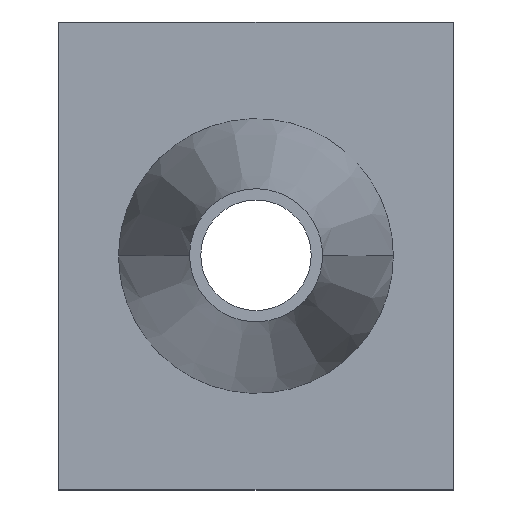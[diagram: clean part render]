
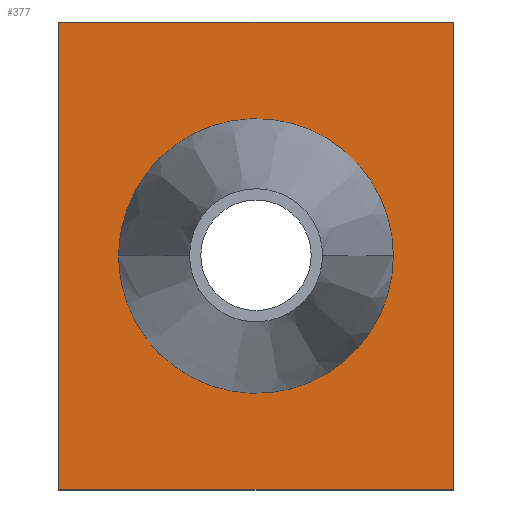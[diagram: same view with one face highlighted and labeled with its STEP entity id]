
A CAD part, top view. The second image highlights one B-rep face of the part: STEP entity #377.
In plain terms, the highlighted planar face has unit normal (0, 0, 1).
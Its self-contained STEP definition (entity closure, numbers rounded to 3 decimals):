
#167=CARTESIAN_POINT('Vertex',(0.,127.,3.)) ;
#174=CARTESIAN_POINT('Vertex',(0.,0.,3.)) ;
#177=CARTESIAN_POINT('Line Origine',(0.,63.5,3.)) ;
#198=CARTESIAN_POINT('Vertex',(107.,127.,3.)) ;
#201=CARTESIAN_POINT('Line Origine',(53.5,127.,3.)) ;
#222=CARTESIAN_POINT('Vertex',(107.,0.,3.)) ;
#225=CARTESIAN_POINT('Line Origine',(107.,63.5,3.)) ;
#242=CARTESIAN_POINT('Line Origine',(53.5,0.,3.)) ;
#324=CARTESIAN_POINT('Axis2P3D Location',(0.,0.,3.)) ;
#336=CARTESIAN_POINT('Control Point',(90.766,63.5,3.)) ;
#337=CARTESIAN_POINT('Control Point',(90.766,69.497,3.)) ;
#338=CARTESIAN_POINT('Control Point',(89.56,75.493,3.)) ;
#339=CARTESIAN_POINT('Control Point',(87.146,81.166,3.)) ;
#340=CARTESIAN_POINT('Control Point',(80.176,91.221,3.)) ;
#341=CARTESIAN_POINT('Control Point',(69.861,97.8,3.)) ;
#342=CARTESIAN_POINT('Control Point',(64.099,99.994,3.)) ;
#343=CARTESIAN_POINT('Control Point',(52.02,101.944,3.)) ;
#344=CARTESIAN_POINT('Control Point',(40.127,99.071,3.)) ;
#345=CARTESIAN_POINT('Control Point',(34.55,96.44,3.)) ;
#346=CARTESIAN_POINT('Control Point',(25.239,89.44,3.)) ;
#347=CARTESIAN_POINT('Control Point',(19.194,79.53,3.)) ;
#348=CARTESIAN_POINT('Control Point',(17.221,74.346,3.)) ;
#349=CARTESIAN_POINT('Control Point',(16.234,68.923,3.)) ;
#350=CARTESIAN_POINT('Control Point',(16.234,63.5,3.)) ;
#351=CARTESIAN_POINT('Vertex',(90.766,63.5,3.)) ;
#353=CARTESIAN_POINT('Vertex',(16.234,63.5,3.)) ;
#357=CARTESIAN_POINT('Control Point',(90.766,63.5,3.)) ;
#358=CARTESIAN_POINT('Control Point',(90.766,57.503,3.)) ;
#359=CARTESIAN_POINT('Control Point',(89.56,51.507,3.)) ;
#360=CARTESIAN_POINT('Control Point',(87.146,45.834,3.)) ;
#361=CARTESIAN_POINT('Control Point',(80.176,35.779,3.)) ;
#362=CARTESIAN_POINT('Control Point',(69.861,29.2,3.)) ;
#363=CARTESIAN_POINT('Control Point',(64.099,27.006,3.)) ;
#364=CARTESIAN_POINT('Control Point',(52.02,25.056,3.)) ;
#365=CARTESIAN_POINT('Control Point',(40.127,27.929,3.)) ;
#366=CARTESIAN_POINT('Control Point',(34.55,30.56,3.)) ;
#367=CARTESIAN_POINT('Control Point',(25.239,37.56,3.)) ;
#368=CARTESIAN_POINT('Control Point',(19.194,47.47,3.)) ;
#369=CARTESIAN_POINT('Control Point',(17.221,52.654,3.)) ;
#370=CARTESIAN_POINT('Control Point',(16.234,58.077,3.)) ;
#371=CARTESIAN_POINT('Control Point',(16.234,63.5,3.)) ;
#178=DIRECTION('Vector Direction',(0.,1.,0.)) ;
#202=DIRECTION('Vector Direction',(-1.,0.,0.)) ;
#226=DIRECTION('Vector Direction',(0.,1.,0.)) ;
#243=DIRECTION('Vector Direction',(1.,0.,0.)) ;
#325=DIRECTION('Axis2P3D Direction',(0.,0.,1.)) ;
#326=DIRECTION('Axis2P3D XDirection',(1.,0.,0.)) ;
#327=AXIS2_PLACEMENT_3D('Plane Axis2P3D',#324,#325,#326) ;
#330=ORIENTED_EDGE('',*,*,#181,.F.) ;
#331=ORIENTED_EDGE('',*,*,#246,.T.) ;
#332=ORIENTED_EDGE('',*,*,#229,.T.) ;
#333=ORIENTED_EDGE('',*,*,#205,.T.) ;
#374=ORIENTED_EDGE('',*,*,#355,.F.) ;
#375=ORIENTED_EDGE('',*,*,#372,.T.) ;
#376=FACE_BOUND('',#373,.T.) ;
#179=VECTOR('Line Direction',#178,1.) ;
#203=VECTOR('Line Direction',#202,1.) ;
#227=VECTOR('Line Direction',#226,1.) ;
#244=VECTOR('Line Direction',#243,1.) ;
#377=ADVANCED_FACE('PartBody',(#334,#376),#328,.T.) ;
#335=B_SPLINE_CURVE_WITH_KNOTS('',5,(#336,#337,#338,#339,#340,#341,#342,#343,#344,#345,#346,#347,#348,#349,#350),.UNSPECIFIED.,.F.,.U.,(6,3,3,3,6),(0.,32.32,64.646,96.971,126.199),.UNSPECIFIED.) ;
#356=B_SPLINE_CURVE_WITH_KNOTS('',5,(#357,#358,#359,#360,#361,#362,#363,#364,#365,#366,#367,#368,#369,#370,#371),.UNSPECIFIED.,.F.,.U.,(6,3,3,3,6),(0.,32.32,64.646,96.971,126.199),.UNSPECIFIED.) ;
#181=EDGE_CURVE('',#175,#168,#180,.T.) ;
#205=EDGE_CURVE('',#199,#168,#204,.T.) ;
#229=EDGE_CURVE('',#223,#199,#228,.T.) ;
#246=EDGE_CURVE('',#175,#223,#245,.T.) ;
#355=EDGE_CURVE('',#352,#354,#335,.T.) ;
#372=EDGE_CURVE('',#352,#354,#356,.T.) ;
#329=EDGE_LOOP('',(#330,#331,#332,#333)) ;
#373=EDGE_LOOP('',(#374,#375)) ;
#334=FACE_OUTER_BOUND('',#329,.T.) ;
#180=LINE('Line',#177,#179) ;
#204=LINE('Line',#201,#203) ;
#228=LINE('Line',#225,#227) ;
#245=LINE('Line',#242,#244) ;
#328=PLANE('',#327) ;
#168=VERTEX_POINT('',#167) ;
#175=VERTEX_POINT('',#174) ;
#199=VERTEX_POINT('',#198) ;
#223=VERTEX_POINT('',#222) ;
#352=VERTEX_POINT('',#351) ;
#354=VERTEX_POINT('',#353) ;
